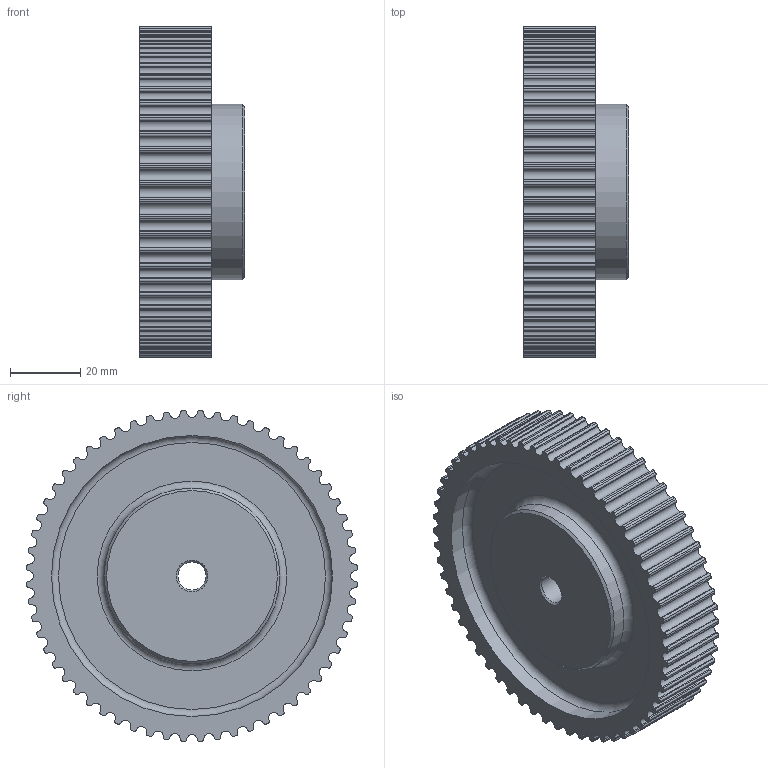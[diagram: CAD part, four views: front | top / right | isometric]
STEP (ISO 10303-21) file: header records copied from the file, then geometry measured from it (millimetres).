
FILE_DESCRIPTION(/* description */ ('PULEGGIA DENTATA HTD 5M'),/* implementation_level */ '2;1');
FILE_NAME(/* name */ '40215060.stp',/* time_stamp */ '2022-12-06T12:11:37+01:00',/* author */ ('Paolo.Silvestro'),/* organization */ (''),/* preprocessor_version */ 'ST-DEVELOPER v19.2',/* originating_system */ 'Autodesk Inventor 2023',/* authorisation */ '');
FILE_SCHEMA (('CONFIG_CONTROL_DESIGN'));
Length unit declared in the file: millimetre
Products named in the file (1): 40215060
Bounding box: 30 x 94.25 x 94.25 mm (x, y, z)
Volume: 114705.4 mm3; surface area: 28628.9 mm2
Topology: 1 solids, 1 shells, 379 faces, 1119 edges, 746 vertices
Faces by surface type: cylinder 245, plane 126, torus 4, cone 4
Full cylindrical faces by diameter (mm): 8 x1, 50 x2, 80 x2
Entity records: 12930 total; most frequent: DIRECTION 2389, CARTESIAN_POINT 2245, ORIENTED_EDGE 2238, EDGE_CURVE 1119, AXIS2_PLACEMENT_3D 890, VERTEX_POINT 746, LINE 609, VECTOR 609
